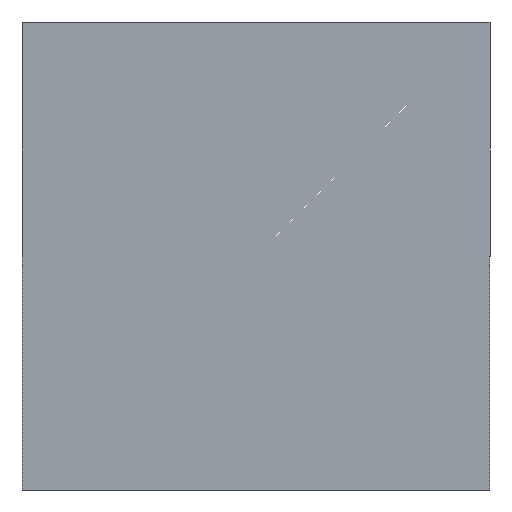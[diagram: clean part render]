
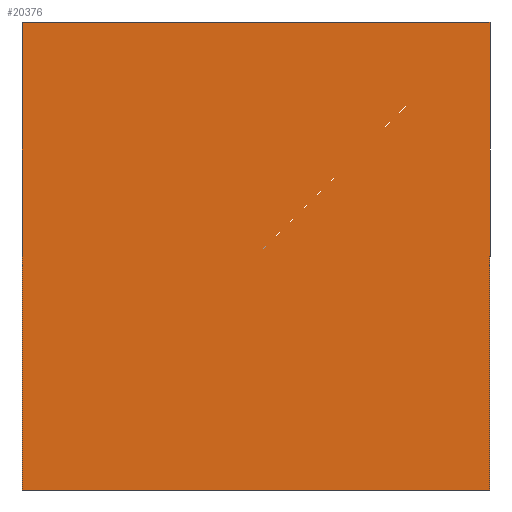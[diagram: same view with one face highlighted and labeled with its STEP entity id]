
A CAD part, front view. The second image highlights one B-rep face of the part: STEP entity #20376.
In plain terms, the highlighted planar face has unit normal (0, -1, 0).
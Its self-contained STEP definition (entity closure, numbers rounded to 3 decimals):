
#4230 = VECTOR ( 'NONE', #8531, 1000. ) ;
#4232 = VECTOR ( 'NONE', #8535, 1000. ) ;
#4235 = VECTOR ( 'NONE', #8541, 1000. ) ;
#4240 = VECTOR ( 'NONE', #8551, 1000. ) ;
#8530 = CARTESIAN_POINT ( 'NONE',  ( -68.911, 0., -36.866 ) ) ;
#8531 = DIRECTION ( 'NONE',  ( -1., 0., 0. ) ) ;
#8534 = CARTESIAN_POINT ( 'NONE',  ( 931.089, 0., -36.866 ) ) ;
#8535 = DIRECTION ( 'NONE',  ( 0., 0., -1. ) ) ;
#8540 = CARTESIAN_POINT ( 'NONE',  ( -68.911, 0., 963.134 ) ) ;
#8541 = DIRECTION ( 'NONE',  ( 1., 0., 0. ) ) ;
#8550 = CARTESIAN_POINT ( 'NONE',  ( -68.911, 0., -36.866 ) ) ;
#8551 = DIRECTION ( 'NONE',  ( 0., 0., 1. ) ) ;
#16282 = AXIS2_PLACEMENT_3D ( 'NONE', #44277, #44278, #44279 ) ;
#20376 = ADVANCED_FACE ( 'NONE', ( #40701 ), #44276, .F. ) ;
#32449 = EDGE_LOOP ( 'NONE', ( #53740, #53739, #53738, #53741 ) ) ;
#40701 = FACE_OUTER_BOUND ( 'NONE', #32449, .T. ) ;
#42606 = VERTEX_POINT ( 'NONE', #68680 ) ;
#42633 = VERTEX_POINT ( 'NONE', #68707 ) ;
#42634 = VERTEX_POINT ( 'NONE', #68708 ) ;
#42636 = VERTEX_POINT ( 'NONE', #68710 ) ;
#44276 = PLANE ( 'NONE',  #16282 ) ;
#44277 = CARTESIAN_POINT ( 'NONE',  ( -68.911, 0., 963.134 ) ) ;
#44278 = DIRECTION ( 'NONE',  ( 0., 1., 0. ) ) ;
#44279 = DIRECTION ( 'NONE',  ( 0., 0., 1. ) ) ;
#51430 = EDGE_CURVE ( 'NONE', #42634, #42606, #71436, .T. ) ;
#51432 = EDGE_CURVE ( 'NONE', #42636, #42634, #71438, .T. ) ;
#51435 = EDGE_CURVE ( 'NONE', #42633, #42636, #71441, .T. ) ;
#51440 = EDGE_CURVE ( 'NONE', #42606, #42633, #71446, .T. ) ;
#53738 = ORIENTED_EDGE ( 'NONE', *, *, #51432, .F. ) ;
#53739 = ORIENTED_EDGE ( 'NONE', *, *, #51430, .F. ) ;
#53740 = ORIENTED_EDGE ( 'NONE', *, *, #51440, .F. ) ;
#53741 = ORIENTED_EDGE ( 'NONE', *, *, #51435, .F. ) ;
#68680 = CARTESIAN_POINT ( 'NONE',  ( -68.911, 0., -36.866 ) ) ;
#68707 = CARTESIAN_POINT ( 'NONE',  ( -68.911, 0., 963.134 ) ) ;
#68708 = CARTESIAN_POINT ( 'NONE',  ( 931.089, 0., -36.866 ) ) ;
#68710 = CARTESIAN_POINT ( 'NONE',  ( 931.089, 0., 963.134 ) ) ;
#71436 = LINE ( 'NONE', #8530, #4230 ) ;
#71438 = LINE ( 'NONE', #8534, #4232 ) ;
#71441 = LINE ( 'NONE', #8540, #4235 ) ;
#71446 = LINE ( 'NONE', #8550, #4240 ) ;
